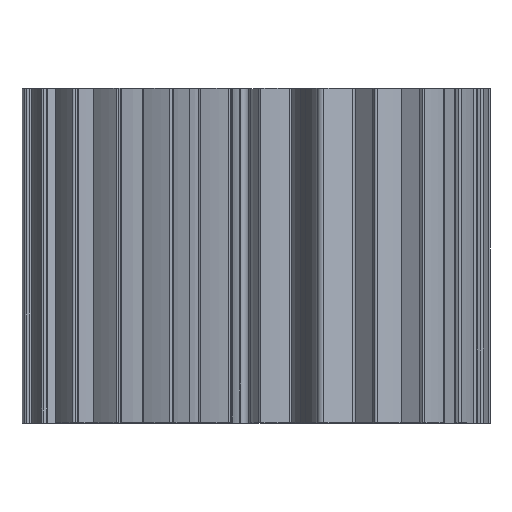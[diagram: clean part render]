
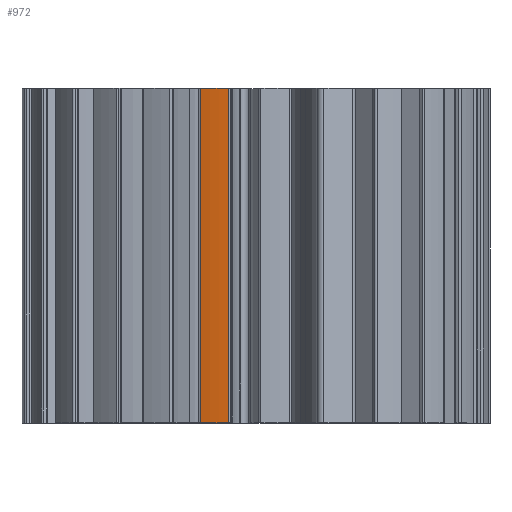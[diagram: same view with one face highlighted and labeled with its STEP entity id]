
A CAD part, top view. The second image highlights one B-rep face of the part: STEP entity #972.
In plain terms, the highlighted cylindrical face has radius 35 mm (diameter 70 mm), a partial arc.
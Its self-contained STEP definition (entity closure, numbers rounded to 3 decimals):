
#184 = CARTESIAN_POINT ( 'NONE',  ( -8.374, 12.728, 33.984 ) ) ;
#221 = CYLINDRICAL_SURFACE ( 'NONE', #2318, 35. ) ;
#842 = ORIENTED_EDGE ( 'NONE', *, *, #5295, .F. ) ;
#936 = CARTESIAN_POINT ( 'NONE',  ( -4.063, 24.172, 34.763 ) ) ;
#972 = ADVANCED_FACE ( 'NONE', ( #8661 ), #221, .T. ) ;
#1620 = DIRECTION ( 'NONE',  ( 0., 0., 1. ) ) ;
#1771 = AXIS2_PLACEMENT_3D ( 'NONE', #6155, #13580, #7213 ) ;
#1968 = ORIENTED_EDGE ( 'NONE', *, *, #12867, .T. ) ;
#1995 = VERTEX_POINT ( 'NONE', #936 ) ;
#2170 = ORIENTED_EDGE ( 'NONE', *, *, #10084, .T. ) ;
#2225 = VECTOR ( 'NONE', #5472, 1000. ) ;
#2318 = AXIS2_PLACEMENT_3D ( 'NONE', #8635, #3375, #1620 ) ;
#3375 = DIRECTION ( 'NONE',  ( 0., 1., 0. ) ) ;
#3707 = AXIS2_PLACEMENT_3D ( 'NONE', #10651, #4330, #11723 ) ;
#3947 = LINE ( 'NONE', #9333, #12383 ) ;
#4330 = DIRECTION ( 'NONE',  ( 0., 1., 0. ) ) ;
#4464 = ORIENTED_EDGE ( 'NONE', *, *, #7338, .T. ) ;
#5295 = EDGE_CURVE ( 'NONE', #9684, #13290, #5977, .T. ) ;
#5472 = DIRECTION ( 'NONE',  ( 0., -1., 0. ) ) ;
#5977 = CIRCLE ( 'NONE', #3707, 35. ) ;
#6155 = CARTESIAN_POINT ( 'NONE',  ( 0., 24.172, 0. ) ) ;
#6156 = DIRECTION ( 'NONE',  ( 0., 1., 0. ) ) ;
#6389 = CARTESIAN_POINT ( 'NONE',  ( -8.374, 74.172, 33.984 ) ) ;
#7213 = DIRECTION ( 'NONE',  ( 0., 0., -1. ) ) ;
#7338 = EDGE_CURVE ( 'NONE', #1995, #13290, #3947, .T. ) ;
#8635 = CARTESIAN_POINT ( 'NONE',  ( 0., 12.728, 0. ) ) ;
#8661 = FACE_OUTER_BOUND ( 'NONE', #11039, .T. ) ;
#9333 = CARTESIAN_POINT ( 'NONE',  ( -4.063, 12.728, 34.763 ) ) ;
#9684 = VERTEX_POINT ( 'NONE', #6389 ) ;
#10084 = EDGE_CURVE ( 'NONE', #10110, #1995, #12824, .T. ) ;
#10110 = VERTEX_POINT ( 'NONE', #10405 ) ;
#10405 = CARTESIAN_POINT ( 'NONE',  ( -8.374, 24.172, 33.984 ) ) ;
#10651 = CARTESIAN_POINT ( 'NONE',  ( 0., 74.172, 0. ) ) ;
#11039 = EDGE_LOOP ( 'NONE', ( #1968, #2170, #4464, #842 ) ) ;
#11723 = DIRECTION ( 'NONE',  ( 0., 0., 1. ) ) ;
#12383 = VECTOR ( 'NONE', #6156, 1000. ) ;
#12824 = CIRCLE ( 'NONE', #1771, 35. ) ;
#12867 = EDGE_CURVE ( 'NONE', #9684, #10110, #13498, .T. ) ;
#13290 = VERTEX_POINT ( 'NONE', #13615 ) ;
#13498 = LINE ( 'NONE', #184, #2225 ) ;
#13580 = DIRECTION ( 'NONE',  ( 0., 1., 0. ) ) ;
#13615 = CARTESIAN_POINT ( 'NONE',  ( -4.063, 74.172, 34.763 ) ) ;
